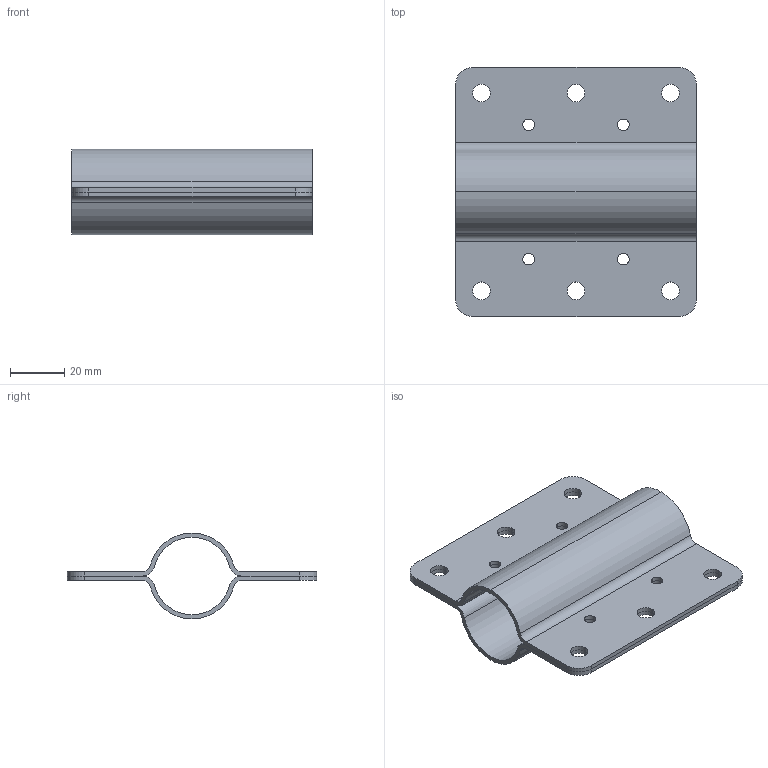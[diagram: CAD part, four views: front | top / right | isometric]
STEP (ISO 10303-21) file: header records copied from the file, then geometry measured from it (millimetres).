
FILE_DESCRIPTION (( 'STEP AP203' ), '1' );
FILE_NAME ('FDPCK-MC1-EMB-3-3.step', '2019-09-11T18:41:00', ( 'ydmin' ), ( '' ), 'SwSTEP 2.0', 'SolidWorks 2017', '' );
FILE_SCHEMA (( 'CONFIG_CONTROL_DESIGN' ));
Length unit declared in the file: inch
Products named in the file (1): FDPCK-MC1-EMB-3-3
Bounding box: 88.9 x 92.08 x 31.75 mm (x, y, z)
Volume: 28817.9 mm3; surface area: 38068.2 mm2
Topology: 2 solids, 2 shells, 78 faces, 222 edges, 148 vertices
Faces by surface type: cylinder 62, plane 16
Entity records: 2767 total; most frequent: DIRECTION 504, CARTESIAN_POINT 449, ORIENTED_EDGE 444, EDGE_CURVE 222, AXIS2_PLACEMENT_3D 203, VERTEX_POINT 148, CIRCLE 124, EDGE_LOOP 118
